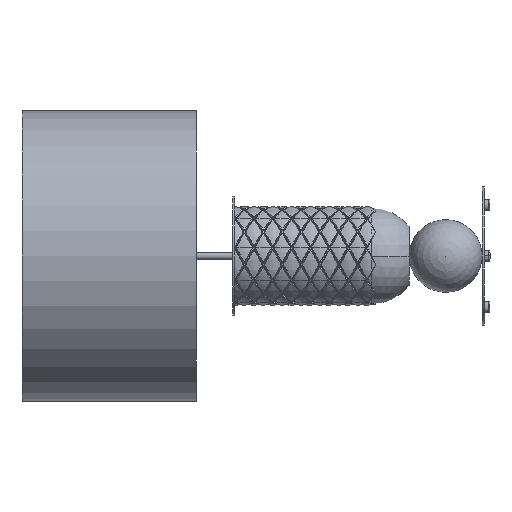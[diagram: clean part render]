
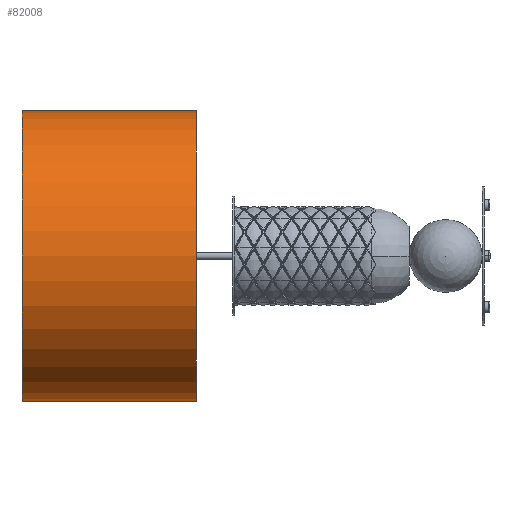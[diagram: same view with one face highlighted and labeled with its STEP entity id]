
A CAD part, left-side view. The second image highlights one B-rep face of the part: STEP entity #82008.
In plain terms, the highlighted cylindrical face has radius 200 mm (diameter 400 mm), a partial arc.
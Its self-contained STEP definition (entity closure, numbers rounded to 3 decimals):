
#8698 = DIRECTION ( 'NONE',  ( 0., -1., 0. ) ) ;
#10610 = LINE ( 'NONE', #93534, #124590 ) ;
#12341 = CARTESIAN_POINT ( 'NONE',  ( -54.582, 323.516, 444. ) ) ;
#12907 = DIRECTION ( 'NONE',  ( 0., -1., 0. ) ) ;
#18208 = DIRECTION ( 'NONE',  ( 0., -1., 0. ) ) ;
#21047 = CARTESIAN_POINT ( 'NONE',  ( -54.582, 83.516, 644. ) ) ;
#21405 = EDGE_CURVE ( 'NONE', #151514, #83902, #116676, .T. ) ;
#26623 = VERTEX_POINT ( 'NONE', #139726 ) ;
#33899 = ORIENTED_EDGE ( 'NONE', *, *, #21405, .F. ) ;
#38077 = ORIENTED_EDGE ( 'NONE', *, *, #142261, .T. ) ;
#43496 = CYLINDRICAL_SURFACE ( 'NONE', #89311, 200. ) ;
#56156 = CARTESIAN_POINT ( 'NONE',  ( -54.582, 323.516, 844. ) ) ;
#61625 = VECTOR ( 'NONE', #18208, 1000. ) ;
#74483 = ORIENTED_EDGE ( 'NONE', *, *, #101848, .F. ) ;
#81824 = AXIS2_PLACEMENT_3D ( 'NONE', #96783, #110336, #124571 ) ;
#82008 = ADVANCED_FACE ( 'NONE', ( #123666 ), #43496, .T. ) ;
#83902 = VERTEX_POINT ( 'NONE', #56156 ) ;
#89311 = AXIS2_PLACEMENT_3D ( 'NONE', #115845, #8698, #143587 ) ;
#93534 = CARTESIAN_POINT ( 'NONE',  ( -54.582, 323.516, 844. ) ) ;
#96783 = CARTESIAN_POINT ( 'NONE',  ( -54.582, 323.516, 644. ) ) ;
#101848 = EDGE_CURVE ( 'NONE', #83902, #26623, #10610, .T. ) ;
#110336 = DIRECTION ( 'NONE',  ( 0., 1., 0. ) ) ;
#115845 = CARTESIAN_POINT ( 'NONE',  ( -54.582, 323.516, 644. ) ) ;
#116676 = CIRCLE ( 'NONE', #81824, 200. ) ;
#123666 = FACE_OUTER_BOUND ( 'NONE', #124543, .T. ) ;
#124543 = EDGE_LOOP ( 'NONE', ( #33899, #125460, #38077, #74483 ) ) ;
#124571 = DIRECTION ( 'NONE',  ( 0., 0., -1. ) ) ;
#124590 = VECTOR ( 'NONE', #12907, 1000. ) ;
#125460 = ORIENTED_EDGE ( 'NONE', *, *, #135284, .T. ) ;
#126547 = DIRECTION ( 'NONE',  ( 0., 0., -1. ) ) ;
#130152 = AXIS2_PLACEMENT_3D ( 'NONE', #21047, #154930, #126547 ) ;
#133311 = LINE ( 'NONE', #138457, #61625 ) ;
#135284 = EDGE_CURVE ( 'NONE', #151514, #154524, #133311, .T. ) ;
#136360 = CIRCLE ( 'NONE', #130152, 200. ) ;
#138457 = CARTESIAN_POINT ( 'NONE',  ( -54.582, 323.516, 444. ) ) ;
#139726 = CARTESIAN_POINT ( 'NONE',  ( -54.582, 83.516, 844. ) ) ;
#141887 = CARTESIAN_POINT ( 'NONE',  ( -54.582, 83.516, 444. ) ) ;
#142261 = EDGE_CURVE ( 'NONE', #154524, #26623, #136360, .T. ) ;
#143587 = DIRECTION ( 'NONE',  ( 0., 0., 1. ) ) ;
#151514 = VERTEX_POINT ( 'NONE', #12341 ) ;
#154524 = VERTEX_POINT ( 'NONE', #141887 ) ;
#154930 = DIRECTION ( 'NONE',  ( 0., 1., 0. ) ) ;
